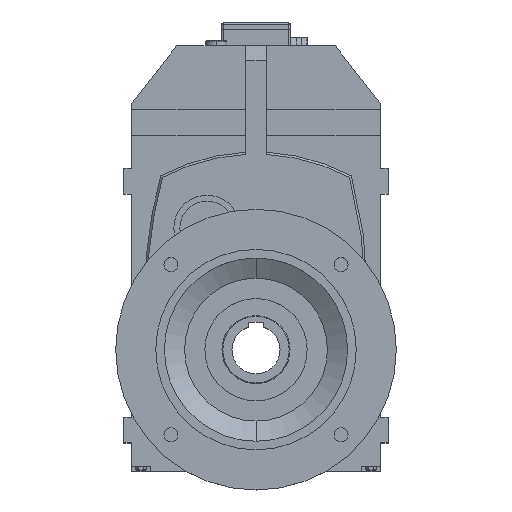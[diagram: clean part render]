
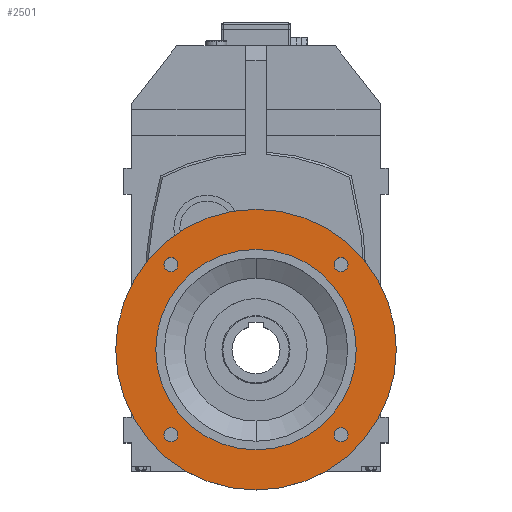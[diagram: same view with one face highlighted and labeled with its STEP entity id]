
A CAD part, top view. The second image highlights one B-rep face of the part: STEP entity #2501.
In plain terms, the highlighted planar face has unit normal (0, 0, 1).
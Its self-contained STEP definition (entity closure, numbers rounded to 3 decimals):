
#15 = FACE_BOUND ( 'NONE', #1363, .T. ) ;
#372 = CIRCLE ( 'NONE', #27496, 8.75 ) ;
#755 = EDGE_LOOP ( 'NONE', ( #23973, #25595 ) ) ;
#1051 = ORIENTED_EDGE ( 'NONE', *, *, #21878, .T. ) ;
#1363 = EDGE_LOOP ( 'NONE', ( #3388, #42372 ) ) ;
#1519 = EDGE_CURVE ( 'NONE', #29246, #36187, #13041, .T. ) ;
#1626 = DIRECTION ( 'NONE',  ( 0., -1., 0. ) ) ;
#2482 = EDGE_LOOP ( 'NONE', ( #28156, #13260 ) ) ;
#2501 = ADVANCED_FACE ( 'NONE', ( #30610, #15, #41633, #5162, #16199, #33510 ), #30504, .F. ) ;
#3388 = ORIENTED_EDGE ( 'NONE', *, *, #38668, .T. ) ;
#3726 = CARTESIAN_POINT ( 'NONE',  ( -282.592, -61.962, 132.5 ) ) ;
#4264 = DIRECTION ( 'NONE',  ( -1., 0., 0. ) ) ;
#4967 = DIRECTION ( 'NONE',  ( 0., 0., 1. ) ) ;
#5162 = FACE_BOUND ( 'NONE', #2482, .T. ) ;
#5294 = CARTESIAN_POINT ( 'NONE',  ( -176.526, 6.972, 132.5 ) ) ;
#6270 = CARTESIAN_POINT ( 'NONE',  ( -79.21, -61.962, 132.5 ) ) ;
#6903 = AXIS2_PLACEMENT_3D ( 'NONE', #8098, #37877, #4264 ) ;
#7762 = EDGE_LOOP ( 'NONE', ( #25933, #37771 ) ) ;
#8098 = CARTESIAN_POINT ( 'NONE',  ( -282.592, -61.962, 132.5 ) ) ;
#8125 = DIRECTION ( 'NONE',  ( 0., 1., 0. ) ) ;
#8422 = EDGE_CURVE ( 'NONE', #9370, #16386, #11476, .T. ) ;
#8624 = EDGE_CURVE ( 'NONE', #20891, #12826, #20126, .T. ) ;
#8670 = DIRECTION ( 'NONE',  ( 0., 0., -1. ) ) ;
#9370 = VERTEX_POINT ( 'NONE', #18971 ) ;
#9807 = CARTESIAN_POINT ( 'NONE',  ( -70.46, -61.962, 132.5 ) ) ;
#10024 = VERTEX_POINT ( 'NONE', #12888 ) ;
#10281 = CIRCLE ( 'NONE', #31823, 8.75 ) ;
#11141 = DIRECTION ( 'NONE',  ( 0., 0., 1. ) ) ;
#11254 = AXIS2_PLACEMENT_3D ( 'NONE', #30270, #38053, #8125 ) ;
#11296 = DIRECTION ( 'NONE',  ( 0., 0., -1. ) ) ;
#11476 = CIRCLE ( 'NONE', #18786, 175. ) ;
#11606 = CARTESIAN_POINT ( 'NONE',  ( -176.526, -168.028, 132.5 ) ) ;
#11760 = AXIS2_PLACEMENT_3D ( 'NONE', #11606, #4967, #30814 ) ;
#12526 = CIRCLE ( 'NONE', #22294, 8.75 ) ;
#12795 = CARTESIAN_POINT ( 'NONE',  ( -70.46, -265.344, 132.5 ) ) ;
#12826 = VERTEX_POINT ( 'NONE', #12795 ) ;
#12888 = CARTESIAN_POINT ( 'NONE',  ( -61.71, -61.962, 132.5 ) ) ;
#13041 = CIRCLE ( 'NONE', #13685, 125. ) ;
#13102 = AXIS2_PLACEMENT_3D ( 'NONE', #3726, #11296, #37167 ) ;
#13177 = AXIS2_PLACEMENT_3D ( 'NONE', #29019, #33064, #14341 ) ;
#13260 = ORIENTED_EDGE ( 'NONE', *, *, #36229, .T. ) ;
#13267 = EDGE_CURVE ( 'NONE', #21839, #38220, #29879, .T. ) ;
#13685 = AXIS2_PLACEMENT_3D ( 'NONE', #22460, #11141, #19076 ) ;
#14341 = DIRECTION ( 'NONE',  ( 0., 1., 0. ) ) ;
#14394 = EDGE_CURVE ( 'NONE', #20857, #36778, #32607, .T. ) ;
#15150 = AXIS2_PLACEMENT_3D ( 'NONE', #38110, #8670, #30337 ) ;
#15324 = CARTESIAN_POINT ( 'NONE',  ( -70.46, -282.844, 132.5 ) ) ;
#16199 = FACE_OUTER_BOUND ( 'NONE', #755, .T. ) ;
#16386 = VERTEX_POINT ( 'NONE', #38488 ) ;
#16883 = CIRCLE ( 'NONE', #11254, 8.75 ) ;
#17659 = CARTESIAN_POINT ( 'NONE',  ( -176.526, -168.028, 132.5 ) ) ;
#18093 = CARTESIAN_POINT ( 'NONE',  ( -291.342, -61.962, 132.5 ) ) ;
#18099 = DIRECTION ( 'NONE',  ( 0., 0., -1. ) ) ;
#18786 = AXIS2_PLACEMENT_3D ( 'NONE', #34724, #46157, #1626 ) ;
#18878 = EDGE_LOOP ( 'NONE', ( #24279, #25333 ) ) ;
#18971 = CARTESIAN_POINT ( 'NONE',  ( -176.526, 6.972, 132.5 ) ) ;
#19076 = DIRECTION ( 'NONE',  ( 0., -1., 0. ) ) ;
#19543 = DIRECTION ( 'NONE',  ( 0., 0., -1. ) ) ;
#20126 = CIRCLE ( 'NONE', #13177, 8.75 ) ;
#20857 = VERTEX_POINT ( 'NONE', #18093 ) ;
#20891 = VERTEX_POINT ( 'NONE', #15324 ) ;
#21587 = AXIS2_PLACEMENT_3D ( 'NONE', #5294, #45674, #45359 ) ;
#21611 = AXIS2_PLACEMENT_3D ( 'NONE', #17659, #47333, #35916 ) ;
#21839 = VERTEX_POINT ( 'NONE', #38358 ) ;
#21878 = EDGE_CURVE ( 'NONE', #38220, #21839, #16883, .T. ) ;
#22294 = AXIS2_PLACEMENT_3D ( 'NONE', #26602, #19543, #30644 ) ;
#22347 = CIRCLE ( 'NONE', #11760, 125. ) ;
#22460 = CARTESIAN_POINT ( 'NONE',  ( -176.526, -168.028, 132.5 ) ) ;
#23497 = EDGE_CURVE ( 'NONE', #36187, #29246, #22347, .T. ) ;
#23973 = ORIENTED_EDGE ( 'NONE', *, *, #25320, .F. ) ;
#24279 = ORIENTED_EDGE ( 'NONE', *, *, #41758, .T. ) ;
#25021 = VERTEX_POINT ( 'NONE', #6270 ) ;
#25320 = EDGE_CURVE ( 'NONE', #16386, #9370, #44027, .T. ) ;
#25333 = ORIENTED_EDGE ( 'NONE', *, *, #38302, .T. ) ;
#25595 = ORIENTED_EDGE ( 'NONE', *, *, #8422, .F. ) ;
#25933 = ORIENTED_EDGE ( 'NONE', *, *, #1519, .F. ) ;
#26602 = CARTESIAN_POINT ( 'NONE',  ( -70.46, -274.094, 132.5 ) ) ;
#26683 = CARTESIAN_POINT ( 'NONE',  ( -176.526, -43.028, 132.5 ) ) ;
#27460 = CARTESIAN_POINT ( 'NONE',  ( -282.592, -265.344, 132.5 ) ) ;
#27496 = AXIS2_PLACEMENT_3D ( 'NONE', #43597, #18099, #40204 ) ;
#28156 = ORIENTED_EDGE ( 'NONE', *, *, #14394, .T. ) ;
#29019 = CARTESIAN_POINT ( 'NONE',  ( -70.46, -274.094, 132.5 ) ) ;
#29246 = VERTEX_POINT ( 'NONE', #44534 ) ;
#29879 = CIRCLE ( 'NONE', #15150, 8.75 ) ;
#30125 = EDGE_LOOP ( 'NONE', ( #1051, #47887 ) ) ;
#30270 = CARTESIAN_POINT ( 'NONE',  ( -282.592, -274.094, 132.5 ) ) ;
#30337 = DIRECTION ( 'NONE',  ( 0., 1., 0. ) ) ;
#30504 = PLANE ( 'NONE',  #21587 ) ;
#30610 = FACE_BOUND ( 'NONE', #18878, .T. ) ;
#30644 = DIRECTION ( 'NONE',  ( 0., 1., 0. ) ) ;
#30814 = DIRECTION ( 'NONE',  ( 0., -1., 0. ) ) ;
#31814 = DIRECTION ( 'NONE',  ( 0., 0., -1. ) ) ;
#31823 = AXIS2_PLACEMENT_3D ( 'NONE', #9807, #31814, #39103 ) ;
#32607 = CIRCLE ( 'NONE', #13102, 8.75 ) ;
#33064 = DIRECTION ( 'NONE',  ( 0., 0., -1. ) ) ;
#33510 = FACE_BOUND ( 'NONE', #7762, .T. ) ;
#34724 = CARTESIAN_POINT ( 'NONE',  ( -176.526, -168.028, 132.5 ) ) ;
#35369 = CIRCLE ( 'NONE', #6903, 8.75 ) ;
#35916 = DIRECTION ( 'NONE',  ( 0., -1., 0. ) ) ;
#36187 = VERTEX_POINT ( 'NONE', #26683 ) ;
#36229 = EDGE_CURVE ( 'NONE', #36778, #20857, #35369, .T. ) ;
#36778 = VERTEX_POINT ( 'NONE', #41455 ) ;
#37167 = DIRECTION ( 'NONE',  ( -1., 0., 0. ) ) ;
#37771 = ORIENTED_EDGE ( 'NONE', *, *, #23497, .F. ) ;
#37877 = DIRECTION ( 'NONE',  ( 0., 0., -1. ) ) ;
#38053 = DIRECTION ( 'NONE',  ( 0., 0., -1. ) ) ;
#38110 = CARTESIAN_POINT ( 'NONE',  ( -282.592, -274.094, 132.5 ) ) ;
#38220 = VERTEX_POINT ( 'NONE', #27460 ) ;
#38302 = EDGE_CURVE ( 'NONE', #10024, #25021, #10281, .T. ) ;
#38358 = CARTESIAN_POINT ( 'NONE',  ( -282.592, -282.844, 132.5 ) ) ;
#38488 = CARTESIAN_POINT ( 'NONE',  ( -176.526, -343.028, 132.5 ) ) ;
#38668 = EDGE_CURVE ( 'NONE', #12826, #20891, #12526, .T. ) ;
#39103 = DIRECTION ( 'NONE',  ( -1., 0., 0. ) ) ;
#40204 = DIRECTION ( 'NONE',  ( -1., 0., 0. ) ) ;
#41455 = CARTESIAN_POINT ( 'NONE',  ( -273.842, -61.962, 132.5 ) ) ;
#41633 = FACE_BOUND ( 'NONE', #30125, .T. ) ;
#41758 = EDGE_CURVE ( 'NONE', #25021, #10024, #372, .T. ) ;
#42372 = ORIENTED_EDGE ( 'NONE', *, *, #8624, .T. ) ;
#43597 = CARTESIAN_POINT ( 'NONE',  ( -70.46, -61.962, 132.5 ) ) ;
#44027 = CIRCLE ( 'NONE', #21611, 175. ) ;
#44534 = CARTESIAN_POINT ( 'NONE',  ( -176.526, -293.028, 132.5 ) ) ;
#45359 = DIRECTION ( 'NONE',  ( 0., 1., 0. ) ) ;
#45674 = DIRECTION ( 'NONE',  ( 0., 0., -1. ) ) ;
#46157 = DIRECTION ( 'NONE',  ( 0., 0., -1. ) ) ;
#47333 = DIRECTION ( 'NONE',  ( 0., 0., -1. ) ) ;
#47887 = ORIENTED_EDGE ( 'NONE', *, *, #13267, .T. ) ;
